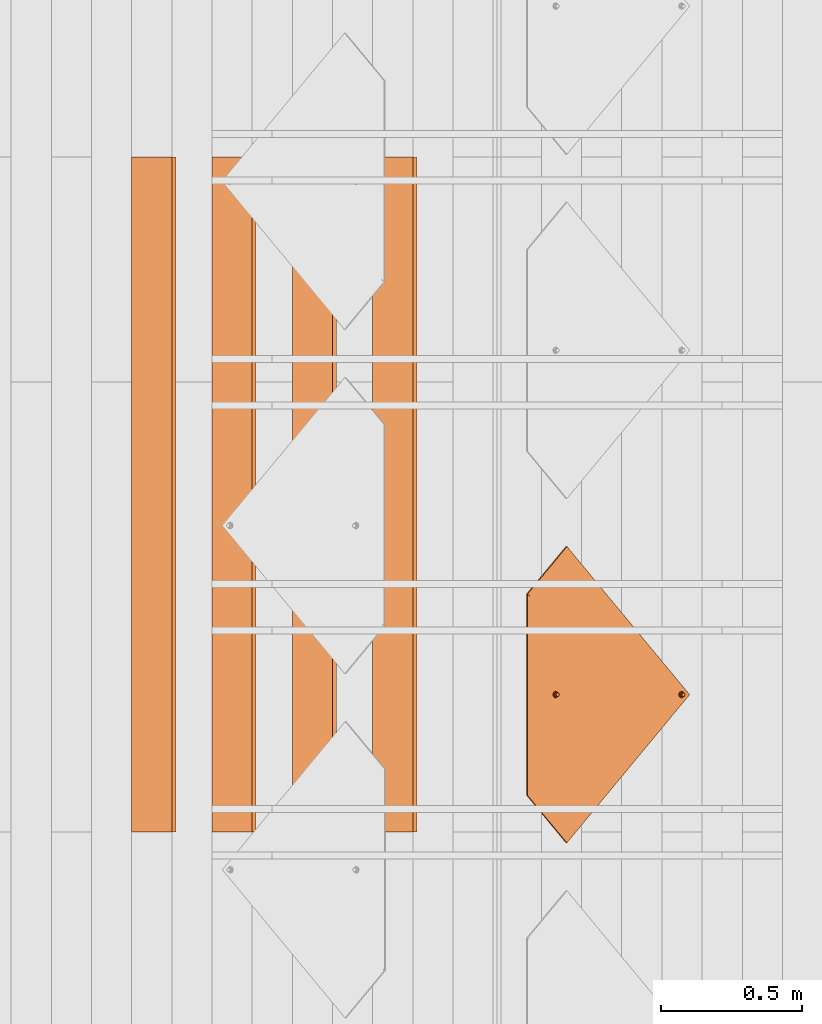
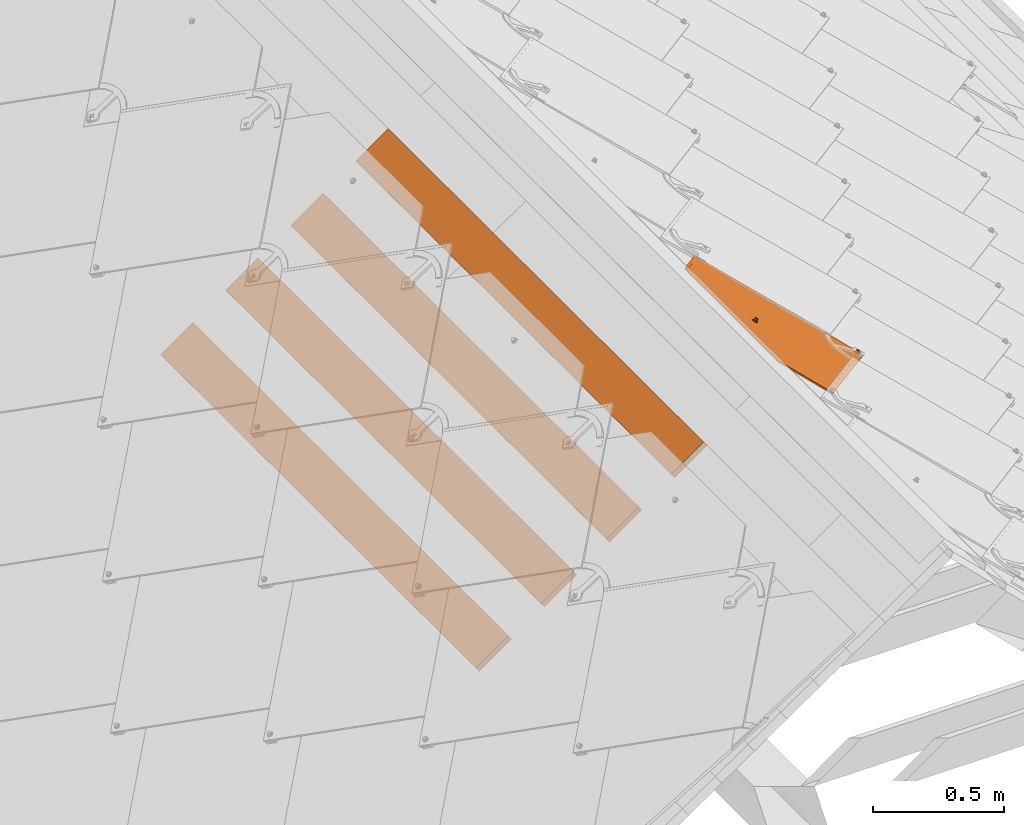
# One storey, part 40 of 151: 5 proxies, 1 element without a shape of its own.
"""IFC2X3 building model written with IfcOpenShell, lengths in millimetres."""

from ifc_helpers import new_model, entity, si_unit, converted_unit, derived_unit, direction, frame, frame_2d, origin, place, context, subcontext, project, spatial, rectangle, extrude, faceted_brep, source, transform, mapped, material, material_list, type_object, type_shapes, element, aggregate, save


model = new_model("IFC2X3")

# Units and contexts
model_context = context("Model", 3, precision=0.01, world=origin(), true_north=direction((6.12303176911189e-17, 1.0)))
body_context = subcontext(model_context, "Body", "Model", "MODEL_VIEW")
ifc_project = project(units=[si_unit("LENGTHUNIT", "METRE", prefix="MILLI"), si_unit("AREAUNIT", "SQUARE_METRE"), si_unit("VOLUMEUNIT", "CUBIC_METRE"), converted_unit("PLANEANGLEUNIT", "DEGREE", entity("IfcRatioMeasure", 0.0174532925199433), si_unit("PLANEANGLEUNIT", "RADIAN"), dimensions=[0, 0, 0, 0, 0, 0, 0]), si_unit("MASSUNIT", "GRAM", prefix="KILO"), derived_unit("MASSDENSITYUNIT", [(si_unit("MASSUNIT", "GRAM", prefix="KILO"), 1), (si_unit("LENGTHUNIT", "METRE"), -3)]), si_unit("TIMEUNIT", "SECOND"), si_unit("FREQUENCYUNIT", "HERTZ"), si_unit("THERMODYNAMICTEMPERATUREUNIT", "DEGREE_CELSIUS"), derived_unit("THERMALTRANSMITTANCEUNIT", [(si_unit("MASSUNIT", "GRAM", prefix="KILO"), 1), (si_unit("THERMODYNAMICTEMPERATUREUNIT", "KELVIN"), -1), (si_unit("TIMEUNIT", "SECOND"), -3)]), derived_unit("VOLUMETRICFLOWRATEUNIT", [(si_unit("LENGTHUNIT", "METRE"), 3), (si_unit("TIMEUNIT", "SECOND"), -1)]), si_unit("ELECTRICCURRENTUNIT", "AMPERE"), si_unit("ELECTRICVOLTAGEUNIT", "VOLT"), si_unit("POWERUNIT", "WATT"), si_unit("FORCEUNIT", "NEWTON", prefix="KILO"), si_unit("ILLUMINANCEUNIT", "LUX"), si_unit("LUMINOUSFLUXUNIT", "LUMEN"), si_unit("LUMINOUSINTENSITYUNIT", "CANDELA"), derived_unit("USERDEFINED", [(si_unit("MASSUNIT", "GRAM", prefix="KILO"), -1), (si_unit("LENGTHUNIT", "METRE"), -2), (si_unit("TIMEUNIT", "SECOND"), 3), (si_unit("LUMINOUSFLUXUNIT", "LUMEN"), 1)]), derived_unit("LINEARVELOCITYUNIT", [(si_unit("LENGTHUNIT", "METRE"), 1), (si_unit("TIMEUNIT", "SECOND"), -1)]), si_unit("PRESSUREUNIT", "PASCAL"), derived_unit("USERDEFINED", [(si_unit("LENGTHUNIT", "METRE"), -2), (si_unit("MASSUNIT", "GRAM", prefix="KILO"), 1), (si_unit("TIMEUNIT", "SECOND"), -2)])], contexts=[model_context])

# Site, building, storey
site_placement = place(None, origin())
site = spatial("IfcSite", under=ifc_project, at=site_placement, Name="Default", CompositionType="ELEMENT")
building_placement = place(site_placement, origin())
building = spatial("IfcBuilding", under=site, at=building_placement, CompositionType="ELEMENT")
storey_placement = place(building_placement, origin())
storey = spatial("IfcBuildingStorey", under=building, at=storey_placement, Name="Level 1", CompositionType="ELEMENT", Elevation=0.0)

# Assembly, proxies
assembly_placement = place(storey_placement, origin())
assembly = element("IfcElementAssembly", 1, at=assembly_placement, inside=storey, Name="Structural Framing Assembly:Roof Construction Assembly", ObjectType="Structural Framing Assembly:Roof Construction Assembly", AssemblyPlace="NOTDEFINED", PredefinedType="USERDEFINED")
ifc_material_1 = material(Name="Wood - Generic - Wood For Showcase")
building_element_proxy_type_1 = type_object("IfcBuildingElementProxyType", Name="Structural Framing 15", PredefinedType="NOTDEFINED", material=ifc_material_1)
shared_shape_1 = source(origin(), body_context, "Body", "SweptSolid", [
    extrude(rectangle(XDim=24.9999999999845, YDim=174.344679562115, at=frame_2d((-1.77635683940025e-13, -4.54747350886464e-13), x_axis=(0.0, 1.0))), frame((1128.20180147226, 1525.55080214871, 2760.23940055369), z_axis=(0.0, 1.0, 0.0), x_axis=(-0.819152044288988, 0.0, -0.573576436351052)), (0.0, 0.0, 1.0), 2400.0),
])
type_shapes(building_element_proxy_type_1, [shared_shape_1])
proxy_1_placement = place(assembly_placement, frame((-228.141730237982, -4870.0, -200.0)))
proxy_1 = element("IfcBuildingElementProxy", 2, at=proxy_1_placement, type_object=building_element_proxy_type_1, material=ifc_material_1, Name="Structural Framing 27:Structural Framing 15", ObjectType="Structural Framing 27:Structural Framing 15", context=body_context, shape_type="MappedRepresentation", body=[
    mapped(shared_shape_1, transform((0.0, 0.0, 0.0), scale=1.0)),
])
building_element_proxy_type_2 = type_object("IfcBuildingElementProxyType", Name="Structural Framing 15", PredefinedType="NOTDEFINED", material=ifc_material_1)
shared_shape_2 = source(origin(), body_context, "Body", "SweptSolid", [
    extrude(rectangle(XDim=24.9999999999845, YDim=174.344679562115, at=frame_2d((-1.77635683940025e-13, -4.54747350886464e-13), x_axis=(0.0, 1.0))), frame((1128.20180147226, 1525.55080214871, 2760.23940055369), z_axis=(0.0, 1.0, 0.0), x_axis=(-0.819152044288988, 0.0, -0.573576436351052)), (0.0, 0.0, 1.0), 2400.0),
])
type_shapes(building_element_proxy_type_2, [shared_shape_2])
proxy_2_placement = place(assembly_placement, frame((-513.771331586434, -4870.0, -400.0)))
proxy_2 = element("IfcBuildingElementProxy", 3, at=proxy_2_placement, type_object=building_element_proxy_type_2, material=ifc_material_1, Name="Structural Framing 37:Structural Framing 15", ObjectType="Structural Framing 37:Structural Framing 15", context=body_context, shape_type="MappedRepresentation", body=[
    mapped(shared_shape_2, transform((0.0, 0.0, 0.0), scale=1.0)),
])
building_element_proxy_type_3 = type_object("IfcBuildingElementProxyType", Name="Structural Framing 15", PredefinedType="NOTDEFINED", material=ifc_material_1)
shared_shape_3 = source(origin(), body_context, "Body", "SweptSolid", [
    extrude(rectangle(XDim=24.9999999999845, YDim=174.344679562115, at=frame_2d((-1.77635683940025e-13, -4.54747350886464e-13), x_axis=(0.0, 1.0))), frame((1128.20180147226, 1525.55080214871, 2760.23940055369), z_axis=(0.0, 1.0, 0.0), x_axis=(-0.819152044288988, 0.0, -0.573576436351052)), (0.0, 0.0, 1.0), 2400.0),
])
type_shapes(building_element_proxy_type_3, [shared_shape_3])
proxy_3_placement = place(assembly_placement, frame((-799.400932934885, -4870.0, -600.0)))
proxy_3 = element("IfcBuildingElementProxy", 4, at=proxy_3_placement, type_object=building_element_proxy_type_3, material=ifc_material_1, Name="Structural Framing 47:Structural Framing 15", ObjectType="Structural Framing 47:Structural Framing 15", context=body_context, shape_type="MappedRepresentation", body=[
    mapped(shared_shape_3, transform((0.0, 0.0, 0.0), scale=1.0)),
])
building_element_proxy_type_4 = type_object("IfcBuildingElementProxyType", Name="Structural Framing 15", PredefinedType="NOTDEFINED", material=ifc_material_1)
shared_shape_4 = source(origin(), body_context, "Body", "SweptSolid", [
    extrude(rectangle(XDim=24.9999999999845, YDim=174.344679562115, at=frame_2d((-1.77635683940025e-13, -4.54747350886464e-13), x_axis=(0.0, 1.0))), frame((1128.20180147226, 1525.55080214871, 2760.23940055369), z_axis=(0.0, 1.0, 0.0), x_axis=(-0.819152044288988, 0.0, -0.573576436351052)), (0.0, 0.0, 1.0), 2400.0),
])
type_shapes(building_element_proxy_type_4, [shared_shape_4])
proxy_4_placement = place(assembly_placement, frame((-1085.03053428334, -4870.0, -800.0)))
proxy_4 = element("IfcBuildingElementProxy", 5, at=proxy_4_placement, type_object=building_element_proxy_type_4, material=ifc_material_1, Name="Structural Framing 57:Structural Framing 15", ObjectType="Structural Framing 57:Structural Framing 15", context=body_context, shape_type="MappedRepresentation", body=[
    mapped(shared_shape_4, transform((0.0, 0.0, 0.0), scale=1.0)),
])
aggregate(assembly, [proxy_1, proxy_2, proxy_3, proxy_4])

# Proxy
ifc_material_2 = material(Name="Rubber - Sunstyle - Black")
ifc_material_3 = material(Name="Glass - Sunstyle - Tainted Black")
ifc_material_list_1 = material_list([ifc_material_2, ifc_material_3])
ifc_material_list_2 = material_list([ifc_material_2, ifc_material_3])
building_element_proxy_type_5 = type_object("IfcBuildingElementProxyType", Name="Shingle Top - Black", PredefinedType="NOTDEFINED", material=ifc_material_list_2)
shared_shape_5 = source(origin(), body_context, "Body", "Brep", [
    faceted_brep([(-518.396436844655, -96.9865733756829, 16.4476231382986), (-518.396436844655, -96.9614556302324, 17.9474128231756), (-526.881123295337, -88.4767691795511, 17.8053154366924), (-526.881123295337, -88.5018869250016, 16.3055257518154), (-376.996804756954, 61.3404039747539, 13.7960402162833), (-368.512118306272, 52.8557175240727, 13.9381376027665), (-376.996804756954, 61.3655217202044, 15.2958299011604), (-368.512118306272, 52.8808352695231, 15.4379272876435)], [[[0, 1, 2, 3]], [[0, 3, 4, 5]], [[3, 2, 6, 4]], [[2, 1, 7, 6]], [[1, 0, 5, 7]], [[5, 4, 6, 7]]]),
    faceted_brep([(0.166366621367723, -33.6374645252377, -4.47296585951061), (-5.6078362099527, -36.9707346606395, -4.4171418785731), (-5.60783620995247, -36.6024255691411, 17.5747274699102), (0.166366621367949, -33.2691554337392, 17.5189034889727), (-5.60783620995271, -43.6372749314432, -4.30549391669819), (-5.60783620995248, -43.2689658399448, 17.6863754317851), (0.166366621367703, -46.9705450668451, -4.24966993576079), (0.166366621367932, -46.6022359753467, 17.7421994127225), (5.94056945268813, -43.6372749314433, -4.30549391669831), (5.94056945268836, -43.2689658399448, 17.686375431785), (5.94056945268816, -36.9707346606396, -4.41714187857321), (5.94056945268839, -36.6024255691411, 17.5747274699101), (-8.43733754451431, -48.5381935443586, 17.774621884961), (0.16636662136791, -52.1014648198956, 17.8342978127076), (-12.0011084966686, -39.9356957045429, 17.6305514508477), (-8.43733754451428, -31.3331978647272, 17.4864810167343), (0.166366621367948, -27.7699265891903, 17.4268050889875), (8.77007078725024, -31.3331978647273, 17.4864810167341), (12.3338417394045, -39.935695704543, 17.6305514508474), (8.77007078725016, -48.5381935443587, 17.7746218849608), (-11.1578780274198, -37.6406185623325, 19.9433933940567), (-9.59010793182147, -39.8646808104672, 21.8708760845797), (0.166366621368, -32.5516055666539, 22.5035764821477), (0.166366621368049, -31.3111079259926, 21.9232298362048), (0.166366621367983, -29.1535570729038, 20.9138547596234), (0.166366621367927, -51.5454208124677, 19.1093557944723), (0.166366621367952, -50.6018442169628, 21.273060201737), (0.166366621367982, -47.1524685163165, 22.7481046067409), (0.166366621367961, -28.2829626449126, 18.7197675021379), (-6.15687907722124, -43.5022527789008, 22.6869725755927), (-6.15687907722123, -36.2018213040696, 22.5647085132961), (11.4906112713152, -42.1520387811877, 20.0189484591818), (10.0152467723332, -40.9390872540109, 21.7920079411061), (6.48961231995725, -36.2018213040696, 22.564708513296), (6.48961231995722, -43.5022527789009, 22.6869725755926), (-6.15687907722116, -43.3682243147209, 30.68986075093), (0.166366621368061, -47.0184400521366, 30.7509927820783), (0.166366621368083, -39.7180085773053, 30.6287287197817), (-6.15687907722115, -36.0677928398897, 30.5675966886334), (6.48961231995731, -43.368224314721, 30.6898607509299), (6.48961231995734, -36.0677928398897, 30.5675966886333), (0.166366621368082, -32.417577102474, 30.5064646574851), (0.166366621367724, -40.3040047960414, -4.36131789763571)], [[[0, 1, 2, 3]], [[1, 4, 5, 2]], [[4, 6, 7, 5]], [[6, 8, 9, 7]], [[8, 10, 11, 9]], [[10, 0, 3, 11]], [[12, 7, 13]], [[7, 12, 5]], [[14, 5, 12]], [[5, 14, 2]], [[15, 2, 14]], [[3, 2, 15]], [[15, 16, 3]], [[16, 17, 3]], [[11, 3, 17]], [[11, 17, 18]], [[9, 11, 18]], [[18, 19, 9]], [[7, 9, 19]], [[19, 13, 7]], [[20, 14, 12]], [[21, 22, 23, 24]], [[24, 20, 21]], [[25, 20, 12]], [[26, 27, 21]], [[15, 14, 20]], [[12, 13, 25]], [[20, 28, 15]], [[28, 20, 24]], [[21, 27, 29]], [[21, 29, 30]], [[26, 21, 20]], [[20, 25, 26]], [[15, 28, 16]], [[21, 30, 22]], [[31, 18, 17]], [[28, 31, 17]], [[32, 27, 26]], [[26, 31, 32]], [[26, 25, 31]], [[25, 19, 31]], [[17, 16, 28]], [[31, 19, 18]], [[24, 31, 28]], [[33, 34, 32]], [[23, 22, 33]], [[24, 32, 31]], [[27, 32, 34]], [[32, 23, 33]], [[19, 25, 13]], [[32, 24, 23]], [[35, 36, 37]], [[37, 38, 35]], [[36, 39, 37]], [[40, 37, 39]], [[37, 40, 41]], [[37, 41, 38]], [[42, 6, 4]], [[4, 1, 42]], [[1, 0, 42]], [[42, 8, 6]], [[0, 10, 42]], [[8, 42, 10]], [[22, 30, 38, 41]], [[30, 29, 35, 38]], [[29, 27, 36, 35]], [[27, 34, 39, 36]], [[34, 33, 40, 39]], [[33, 22, 41, 40]]]),
    faceted_brep([(0.0, -573.927138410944, 4.00636906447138), (-5.77420283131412, -577.260408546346, 4.0621930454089), (-5.77420283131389, -576.892099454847, 26.0540623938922), (0.0, -573.558829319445, 25.9982384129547), (-5.77420283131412, -583.926948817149, 4.1738410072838), (-5.7742028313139, -583.558639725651, 26.1657103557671), (0.0, -587.260218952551, 4.2296649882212), (0.0, -586.891909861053, 26.2215343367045), (5.77420283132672, -583.926948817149, 4.17384100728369), (5.77420283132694, -583.558639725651, 26.165710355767), (5.77420283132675, -577.260408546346, 4.06219304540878), (5.77420283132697, -576.892099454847, 26.0540623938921), (-8.60370416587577, -588.827867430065, 26.253956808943), (0.0, -592.391138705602, 26.3136327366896), (-12.1674751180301, -580.225369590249, 26.1098863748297), (-8.60370416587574, -571.622871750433, 25.9658159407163), (0.0, -568.059600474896, 25.9061400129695), (8.60370416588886, -571.622871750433, 25.9658159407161), (12.1674751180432, -580.225369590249, 26.1098863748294), (8.60370416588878, -588.827867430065, 26.2539568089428), (-11.3242446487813, -577.930292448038, 28.4227283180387), (-9.75647455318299, -580.154354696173, 30.3502110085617), (0.0, -572.84127945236, 30.9829114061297), (0.0, -571.600781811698, 30.4025647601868), (0.0, -569.44323095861, 29.3931896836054), (0.0, -591.835094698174, 27.5886907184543), (0.0, -590.891518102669, 29.752395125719), (0.0, -587.442142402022, 31.227439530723), (0.0, -568.572636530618, 27.1991024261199), (-6.32324569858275, -583.791926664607, 31.1663074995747), (-6.32324569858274, -576.491495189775, 31.0440434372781), (11.3242446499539, -582.441712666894, 28.4982833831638), (9.84888015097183, -581.228761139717, 30.2713428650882), (6.32324569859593, -576.491495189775, 31.044043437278), (6.32324569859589, -583.791926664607, 31.1663074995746), (-6.32324569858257, -583.657898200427, 39.169195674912), (0.0, -587.308113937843, 39.2303277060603), (0.0, -580.007682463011, 39.1080636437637), (-6.32324569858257, -576.357466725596, 39.0469316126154), (6.32324569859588, -583.657898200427, 39.1691956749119), (6.32324569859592, -576.357466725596, 39.0469316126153), (0.0, -572.70725098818, 38.9857995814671), (0.0, -580.593678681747, 4.11801702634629)], [[[0, 1, 2, 3]], [[1, 4, 5, 2]], [[4, 6, 7, 5]], [[6, 8, 9, 7]], [[8, 10, 11, 9]], [[10, 0, 3, 11]], [[12, 7, 13]], [[7, 12, 5]], [[14, 5, 12]], [[5, 14, 2]], [[15, 2, 14]], [[3, 2, 15]], [[15, 16, 3]], [[16, 17, 3]], [[11, 3, 17]], [[11, 17, 18]], [[9, 11, 18]], [[18, 19, 9]], [[7, 9, 19]], [[19, 13, 7]], [[20, 14, 12]], [[21, 22, 23, 24]], [[24, 20, 21]], [[25, 20, 12]], [[26, 27, 21]], [[15, 14, 20]], [[12, 13, 25]], [[20, 28, 15]], [[28, 20, 24]], [[21, 27, 29]], [[21, 29, 30]], [[26, 21, 20]], [[20, 25, 26]], [[15, 28, 16]], [[21, 30, 22]], [[31, 18, 17]], [[28, 31, 17]], [[32, 27, 26]], [[26, 31, 32]], [[26, 25, 31]], [[25, 19, 31]], [[17, 16, 28]], [[31, 19, 18]], [[24, 31, 28]], [[33, 34, 32]], [[23, 22, 33]], [[24, 32, 31]], [[27, 32, 34]], [[32, 23, 33]], [[19, 25, 13]], [[32, 24, 23]], [[35, 36, 37]], [[37, 38, 35]], [[36, 39, 37]], [[40, 37, 39]], [[37, 40, 41]], [[37, 41, 38]], [[42, 6, 4]], [[4, 1, 42]], [[1, 0, 42]], [[42, 8, 6]], [[0, 10, 42]], [[8, 42, 10]], [[22, 30, 38, 41]], [[30, 29, 35, 38]], [[29, 27, 36, 35]], [[27, 34, 39, 36]], [[34, 33, 40, 39]], [[33, 22, 41, 40]]]),
    faceted_brep([(518.482751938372, -96.8754983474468, 17.9260478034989), (526.967438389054, -88.3908118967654, 17.7839504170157), (526.967438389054, -88.3656941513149, 19.2837401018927), (518.482751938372, -96.8503806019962, 19.4258374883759), (349.749400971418, 71.8105397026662, 15.1009763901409), (358.234087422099, 80.2952261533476, 14.9588790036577), (358.234087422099, 80.3203438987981, 16.4586686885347), (349.749400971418, 71.8356574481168, 16.6007660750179)], [[[0, 1, 2, 3]], [[1, 0, 4, 5]], [[2, 1, 5, 6]], [[3, 2, 6, 7]], [[0, 3, 7, 4]], [[4, 7, 6, 5]]]),
    faceted_brep([(358.234087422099, 80.2952261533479, 14.9588790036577), (6.94661128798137, -35.8890860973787, 16.9046771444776), (7.74581466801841, -37.8182632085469, 16.9369860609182), (5.67526230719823, -34.2324641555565, 16.8769328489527), (8.01840805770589, -39.8885252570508, 16.9716577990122), (7.74581466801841, -41.9587873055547, 17.0063295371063), (6.94661128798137, -43.8879644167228, 17.0386384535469), (526.967438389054, -88.3908118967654, 17.7839504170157), (4.01840805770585, -32.9612934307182, 16.855643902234), (2.08896041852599, -32.1622021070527, 16.8422611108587), (0.0184080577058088, -31.8896469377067, 16.8376964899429), (-358.233442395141, 80.2952261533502, 14.9588790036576), (-2.05214430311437, -32.1622021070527, 16.8422611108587), (-3.98159194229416, -32.9612934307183, 16.855643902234), (-5.63844619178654, -34.2324641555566, 16.8769328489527), (-6.90979517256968, -35.8890860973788, 16.9046771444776), (-7.70899855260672, -37.8182632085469, 16.9369860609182), (-7.98159194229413, -39.8885252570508, 16.9716577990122), (-7.70899855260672, -41.9587873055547, 17.0063295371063), (-6.90979517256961, -43.8879644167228, 17.0386384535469), (-526.966793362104, -88.390811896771, 17.7839504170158), (-5.63844619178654, -45.544586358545, 17.0663827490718), (-5.6568542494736, -574.226981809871, 25.9204974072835), (-6.92820323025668, -575.883603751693, 25.9482417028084), (-7.72740661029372, -577.812780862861, 25.980550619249), (-8.0, -579.883042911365, 26.015222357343), (-7.72740661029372, -581.953304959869, 26.049894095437), (0.000322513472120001, -615.210165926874, 26.6068637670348), (7.72740661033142, -581.953304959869, 26.049894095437), (6.92820323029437, -583.882482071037, 26.0822030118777), (5.65685424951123, -585.53910401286, 26.1099473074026), (4.0, -586.810274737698, 26.1312362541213), (2.070552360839, -587.609366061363, 26.1446190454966), (0.0, -587.881921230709, 26.1491836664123), (-2.0705523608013, -587.609366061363, 26.1446190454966), (-4.0, -586.810274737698, 26.1312362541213), (-5.65685424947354, -585.53910401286, 26.1099473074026), (-6.92820323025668, -583.882482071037, 26.0822030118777), (-4.0, -572.955811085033, 25.8992084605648), (-3.98159194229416, -46.8157570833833, 17.0876716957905), (-2.07055236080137, -572.156719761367, 25.8858256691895), (-2.05214430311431, -47.614848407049, 17.1010544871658), (0.0, -571.884164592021, 25.8812610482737), (0.0184080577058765, -47.8874035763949, 17.1056191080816), (2.07055236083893, -572.156719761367, 25.8858256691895), (2.08896041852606, -47.6148484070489, 17.1010544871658), (4.0, -572.955811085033, 25.8992084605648), (4.01840805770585, -46.8157570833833, 17.0876716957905), (5.65685424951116, -574.226981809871, 25.9204974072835), (5.67526230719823, -45.544586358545, 17.0663827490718), (6.92820323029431, -575.883603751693, 25.9482417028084), (7.72740661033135, -577.812780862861, 25.980550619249), (8.0, -579.883042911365, 26.015222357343), (-358.233442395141, 80.1947551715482, 8.9597202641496), (-6.90979517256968, -35.9895570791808, 10.9055184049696), (-7.70899855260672, -37.9187341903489, 10.9378273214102), (-5.63844619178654, -34.3329351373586, 10.8777741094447), (-7.98159194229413, -39.9889962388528, 10.9724990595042), (-7.70899855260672, -42.0592582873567, 11.0071707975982), (-6.90979517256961, -43.9884353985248, 11.0394797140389), (-526.966793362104, -88.4912828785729, 11.7847916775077), (-3.98159194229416, -33.0617644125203, 10.856485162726), (-2.05214430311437, -32.2626730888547, 10.8431023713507), (0.0184080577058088, -31.9901179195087, 10.8385377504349), (358.234087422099, 80.1947551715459, 8.95972026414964), (2.08896041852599, -32.2626730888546, 10.8431023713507), (4.01840805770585, -33.0617644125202, 10.856485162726), (5.67526230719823, -34.3329351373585, 10.8777741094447), (6.94661128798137, -35.9895570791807, 10.9055184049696), (7.74581466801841, -37.9187341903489, 10.9378273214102), (8.01840805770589, -39.9889962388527, 10.9724990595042), (7.74581466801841, -42.0592582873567, 11.0071707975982), (6.94661128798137, -43.9884353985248, 11.0394797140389), (526.967438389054, -88.4912828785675, 11.7847916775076), (5.67526230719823, -45.645057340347, 11.0672240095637), (5.65685424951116, -574.327452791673, 19.9213386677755), (6.92820323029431, -575.984074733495, 19.9490829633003), (7.72740661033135, -577.913251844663, 19.981391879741), (8.0, -579.983513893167, 20.016063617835), (7.72740661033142, -582.053775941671, 20.050735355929), (0.000322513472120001, -615.310636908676, 20.6077050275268), (-7.72740661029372, -582.053775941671, 20.050735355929), (-6.92820323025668, -583.982953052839, 20.0830442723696), (-5.65685424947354, -585.639574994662, 20.1107885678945), (-4.0, -586.9107457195, 20.1320775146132), (-2.0705523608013, -587.709837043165, 20.1454603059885), (0.0, -587.982392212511, 20.1500249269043), (2.070552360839, -587.709837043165, 20.1454603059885), (4.0, -586.9107457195, 20.1320775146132), (5.65685424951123, -585.639574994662, 20.1107885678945), (6.92820323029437, -583.982953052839, 20.0830442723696), (4.01840805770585, -46.9162280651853, 11.0885129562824), (4.0, -573.056282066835, 19.9000497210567), (2.08896041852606, -47.7153193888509, 11.1018957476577), (2.07055236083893, -572.257190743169, 19.8866669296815), (0.0184080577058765, -47.9878745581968, 11.1064603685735), (0.0, -571.984635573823, 19.8821023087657), (-2.05214430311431, -47.7153193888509, 11.1018957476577), (-2.07055236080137, -572.257190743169, 19.8866669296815), (-3.98159194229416, -46.9162280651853, 11.0885129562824), (-4.0, -573.056282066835, 19.9000497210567), (-5.63844619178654, -45.645057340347, 11.0672240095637), (-5.6568542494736, -574.327452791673, 19.9213386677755), (-6.92820323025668, -575.984074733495, 19.9490829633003), (-7.72740661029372, -577.913251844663, 19.981391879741), (-8.0, -579.983513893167, 20.016063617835)], [[[0, 1, 2]], [[1, 0, 3]], [[0, 2, 4]], [[4, 5, 0]], [[5, 6, 0]], [[7, 0, 6]], [[8, 3, 0]], [[9, 8, 0]], [[10, 9, 0]], [[0, 11, 10]], [[12, 10, 11]], [[13, 12, 11]], [[14, 13, 11]], [[11, 15, 14]], [[15, 11, 16]], [[16, 11, 17]], [[11, 18, 17]], [[18, 11, 19]], [[11, 20, 19]], [[19, 20, 21]], [[20, 22, 21]], [[23, 22, 20]], [[24, 23, 20]], [[24, 20, 25]], [[26, 25, 20]], [[27, 26, 20]], [[7, 28, 27]], [[29, 27, 28]], [[27, 29, 30]], [[30, 31, 27]], [[31, 32, 27]], [[27, 32, 33]], [[27, 33, 34]], [[34, 35, 27]], [[27, 35, 36]], [[36, 37, 27]], [[37, 26, 27]], [[38, 21, 22]], [[38, 39, 21]], [[38, 40, 39]], [[40, 41, 39]], [[40, 42, 41]], [[41, 42, 43]], [[44, 43, 42]], [[44, 45, 43]], [[45, 44, 46]], [[46, 47, 45]], [[46, 48, 47]], [[48, 49, 47]], [[50, 7, 48]], [[48, 7, 49]], [[7, 50, 51]], [[7, 51, 52]], [[52, 28, 7]], [[7, 6, 49]], [[53, 54, 55]], [[54, 53, 56]], [[53, 55, 57]], [[58, 53, 57]], [[59, 53, 58]], [[60, 53, 59]], [[61, 56, 53]], [[62, 61, 53]], [[53, 63, 62]], [[63, 53, 64]], [[65, 63, 64]], [[66, 65, 64]], [[64, 67, 66]], [[67, 64, 68]], [[68, 64, 69]], [[70, 69, 64]], [[71, 70, 64]], [[72, 71, 64]], [[72, 64, 73]], [[72, 73, 74]], [[74, 73, 75]], [[73, 76, 75]], [[76, 73, 77]], [[77, 73, 78]], [[79, 78, 73]], [[79, 73, 80]], [[60, 81, 80]], [[80, 81, 82]], [[80, 82, 83]], [[83, 84, 80]], [[84, 85, 80]], [[85, 86, 80]], [[80, 86, 87]], [[80, 87, 88]], [[80, 88, 89]], [[79, 80, 90]], [[80, 89, 90]], [[75, 91, 74]], [[75, 92, 91]], [[92, 93, 91]], [[93, 92, 94]], [[93, 94, 95]], [[96, 95, 94]], [[97, 95, 96]], [[96, 98, 97]], [[98, 99, 97]], [[98, 100, 99]], [[100, 101, 99]], [[100, 102, 101]], [[60, 101, 102]], [[103, 60, 102]], [[103, 104, 60]], [[104, 105, 60]], [[105, 81, 60]], [[59, 101, 60]], [[27, 20, 60, 80]], [[7, 27, 80, 73]], [[0, 7, 73, 64]], [[25, 105, 104, 24]], [[24, 104, 103, 23]], [[38, 22, 102, 100]], [[102, 22, 23, 103]], [[40, 38, 100, 98]], [[40, 98, 96, 42]], [[42, 96, 94, 44]], [[44, 94, 92, 46]], [[50, 48, 75, 76]], [[75, 48, 46, 92]], [[51, 50, 76, 77]], [[51, 77, 78, 52]], [[52, 78, 79, 28]], [[28, 79, 90, 29]], [[31, 30, 89, 88]], [[29, 90, 89, 30]], [[87, 32, 31, 88]], [[32, 87, 86, 33]], [[34, 33, 86, 85]], [[34, 85, 84, 35]], [[37, 36, 83, 82]], [[35, 84, 83, 36]], [[37, 82, 81, 26]], [[26, 81, 105, 25]], [[17, 57, 55, 16]], [[16, 55, 54, 15]], [[13, 14, 56, 61]], [[56, 14, 15, 54]], [[12, 13, 61, 62]], [[12, 62, 63, 10]], [[10, 63, 65, 9]], [[9, 65, 66, 8]], [[1, 3, 67, 68]], [[67, 3, 8, 66]], [[2, 1, 68, 69]], [[2, 69, 70, 4]], [[4, 70, 71, 5]], [[5, 71, 72, 6]], [[47, 49, 74, 91]], [[74, 49, 6, 72]], [[45, 47, 91, 93]], [[45, 93, 95, 43]], [[43, 95, 97, 41]], [[41, 97, 99, 39]], [[19, 21, 101, 59]], [[101, 21, 39, 99]], [[18, 19, 59, 58]], [[18, 58, 57, 17]], [[11, 0, 64, 53]], [[20, 11, 53, 60]]]),
])
type_shapes(building_element_proxy_type_5, [shared_shape_5])
proxy_5_placement = place(storey_placement, frame((1429.25691597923, -2855.2293147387, 2714.99202663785), z_axis=(0.573576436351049, 0.0, 0.81915204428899), x_axis=(0.0, 1.0, 0.0)))
element("IfcBuildingElementProxy", 6, at=proxy_5_placement, inside=storey, type_object=building_element_proxy_type_5, material=ifc_material_list_1, Name="Roofing_Panels_SunStyle_Tile_Shingle-Top:Shingle Top - Black", ObjectType="Roofing_Panels_SunStyle_Tile_Shingle-Top:Shingle Top - Black", context=body_context, shape_type="MappedRepresentation", body=[
    mapped(shared_shape_5, transform((0.0, 0.0, 0.0), scale=1.0)),
])

save(model, "model.ifc")
